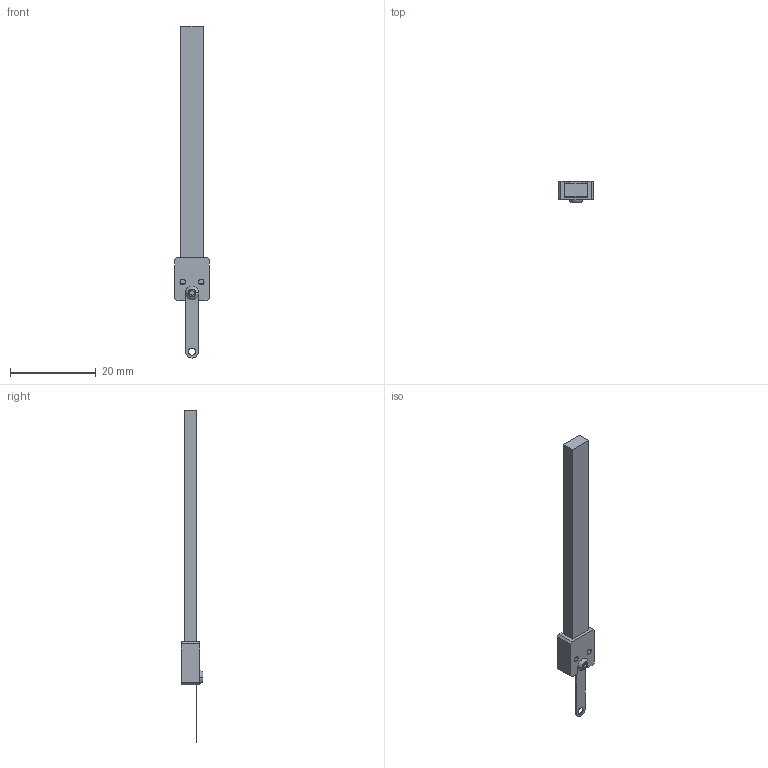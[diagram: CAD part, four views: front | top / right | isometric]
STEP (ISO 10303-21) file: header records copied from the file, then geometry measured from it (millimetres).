
FILE_DESCRIPTION (( 'STEP AP214' ), '1' );
FILE_NAME ('LT4050A_DriveRod_060D1D2-PiezoMotor.STEP', '2017-08-14T09:43:46', ( '' ), ( '' ), 'SwSTEP 2.0', 'SolidWorks 2016', '' );
FILE_SCHEMA (( 'AUTOMOTIVE_DESIGN' ));
Length unit declared in the file: millimetre
Products named in the file (1): LT4050A_DriveRod_060D1D2-PiezoMotor
Bounding box: 8 x 5.1 x 77.35 mm (x, y, z)
Volume: 1180.7 mm3; surface area: 1544 mm2
Topology: 4 solids, 4 shells, 77 faces, 199 edges, 130 vertices
Faces by surface type: cylinder 35, plane 34, cone 6, torus 2
Entity records: 2476 total; most frequent: DIRECTION 439, CARTESIAN_POINT 407, ORIENTED_EDGE 398, EDGE_CURVE 199, AXIS2_PLACEMENT_3D 162, VERTEX_POINT 130, VECTOR 115, LINE 115
